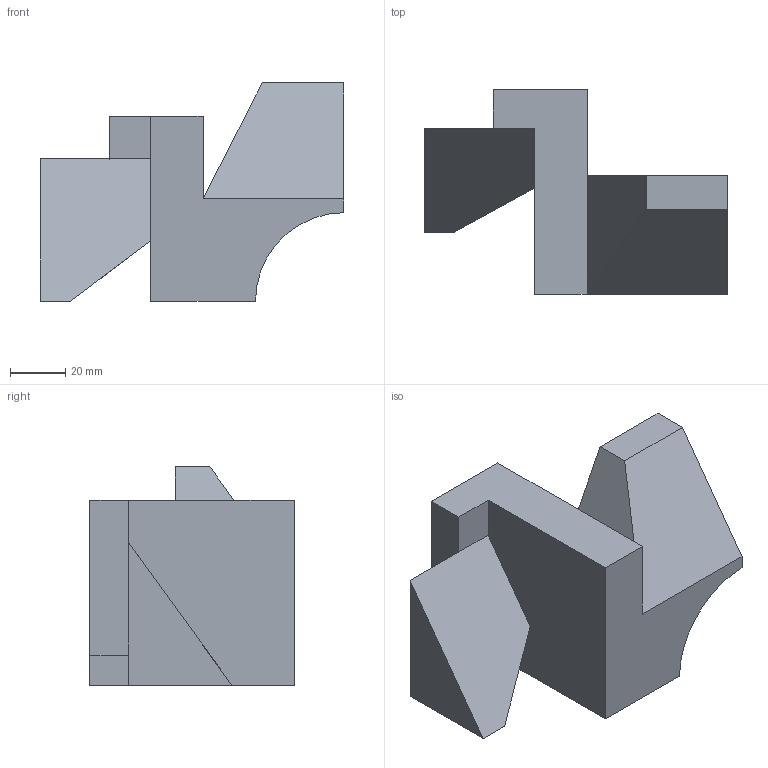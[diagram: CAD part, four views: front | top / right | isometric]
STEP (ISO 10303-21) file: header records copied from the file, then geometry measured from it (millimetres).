
FILE_DESCRIPTION(/* description */ (''),/* implementation_level */ '2;1');
FILE_NAME(/* name */ '740806R1004.step',/* time_stamp */ '2024-08-09T10:38:07+09:00',/* author */ (''),/* organization */ (''),/* preprocessor_version */ 'ST-DEVELOPER v20',/* originating_system */ 'Autodesk Translation Framework v13.14.0.145',/* authorisation */ '');
FILE_SCHEMA (('AUTOMOTIVE_DESIGN { 1 0 10303 214 3 1 1 }'));
Length unit declared in the file: millimetre
Products named in the file (1): 740806R1004
Bounding box: 110 x 74 x 79 mm (x, y, z)
Volume: 229070 mm3; surface area: 32792.7 mm2
Topology: 1 solids, 1 shells, 19 faces, 49 edges, 32 vertices
Faces by surface type: plane 18, cylinder 1
Entity records: 602 total; most frequent: CARTESIAN_POINT 101, ORIENTED_EDGE 98, DIRECTION 91, EDGE_CURVE 49, LINE 47, VECTOR 47, VERTEX_POINT 32, AXIS2_PLACEMENT_3D 22
